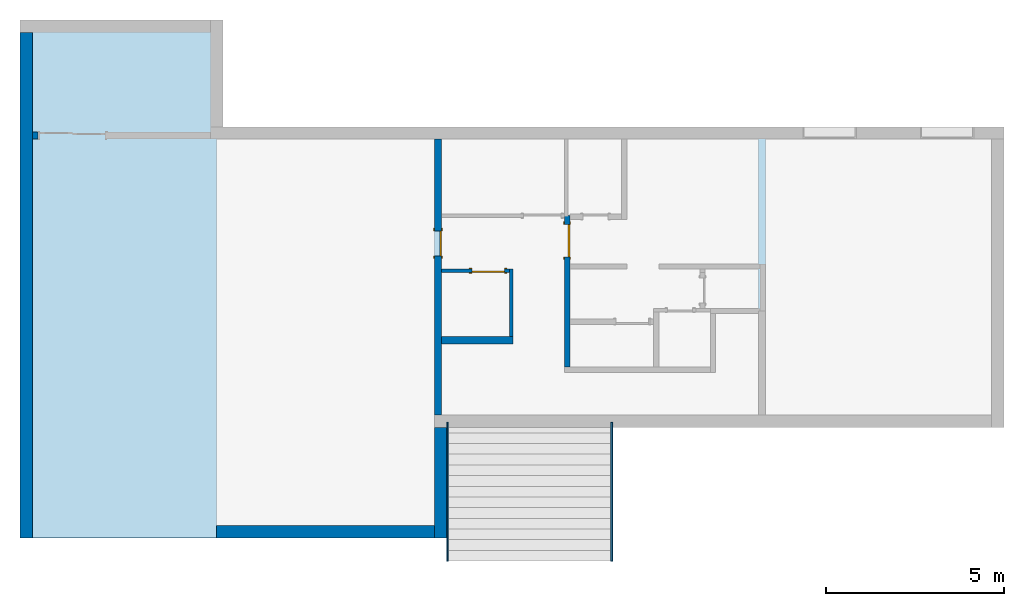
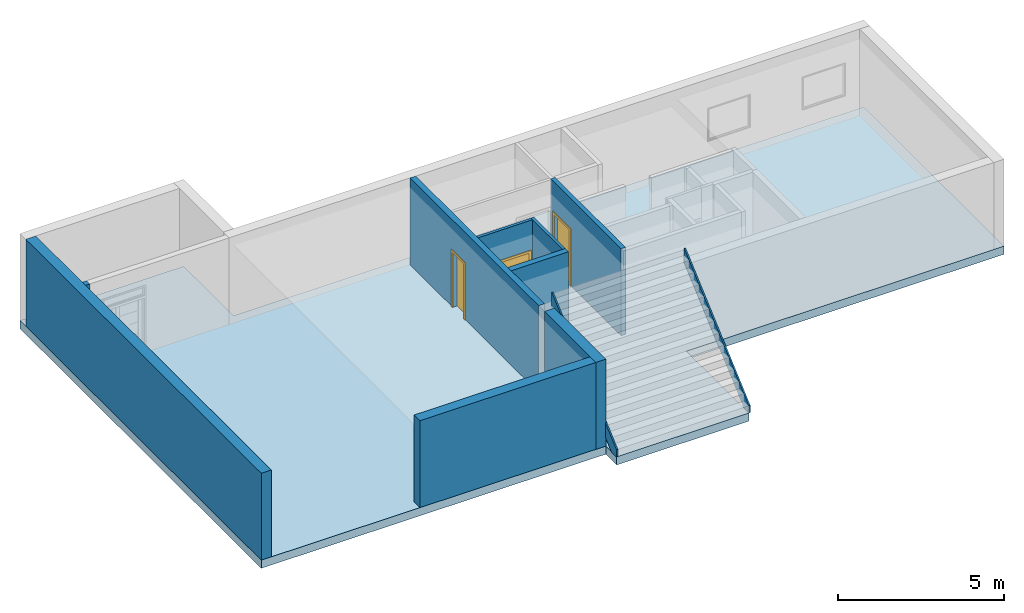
# One storey, part 1 of 5: 9 walls, 3 doors, 2 members, 1 slab, 3 openings, 1 element without a shape of its own.
"""IFC2X3 building model written with IfcOpenShell, lengths in metres."""

from ifc_helpers import new_model, entity, si_unit, converted_unit, derived_unit, direction, frame, frame_2d, origin, origin_2d_with_axis, place, context, subcontext, project, spatial, polyline, rectangle, outline, extrude, source, transform, mapped, material, material_list, layer, layer_set, layer_usage, type_object, type_shapes, element, fill, aggregate, save


model = new_model("IFC2X3")

# Units and contexts
model_context = context("Model", 3, precision=1e-05, world=origin(), true_north=direction((6.123031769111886e-17, 1.0)))
body_context = subcontext(model_context, "Body", "Model", "MODEL_VIEW")
ifc_project = project(units=[si_unit("LENGTHUNIT", "METRE"), si_unit("AREAUNIT", "SQUARE_METRE"), si_unit("VOLUMEUNIT", "CUBIC_METRE"), converted_unit("PLANEANGLEUNIT", "DEGREE", entity("IfcRatioMeasure", 0.017453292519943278), si_unit("PLANEANGLEUNIT", "RADIAN"), dimensions=[0, 0, 0, 0, 0, 0, 0]), si_unit("MASSUNIT", "GRAM", prefix="KILO"), derived_unit("MASSDENSITYUNIT", [(si_unit("MASSUNIT", "GRAM", prefix="KILO"), 1), (si_unit("LENGTHUNIT", "METRE"), -3)]), derived_unit("MOMENTOFINERTIAUNIT", [(si_unit("LENGTHUNIT", "METRE"), 4)]), si_unit("TIMEUNIT", "SECOND"), si_unit("FREQUENCYUNIT", "HERTZ"), si_unit("THERMODYNAMICTEMPERATUREUNIT", "DEGREE_CELSIUS"), derived_unit("THERMALTRANSMITTANCEUNIT", [(si_unit("MASSUNIT", "GRAM", prefix="KILO"), 1), (si_unit("THERMODYNAMICTEMPERATUREUNIT", "KELVIN"), -1), (si_unit("TIMEUNIT", "SECOND"), -3)]), derived_unit("VOLUMETRICFLOWRATEUNIT", [(si_unit("LENGTHUNIT", "METRE"), 3), (si_unit("TIMEUNIT", "SECOND"), -1)]), derived_unit("MASSFLOWRATEUNIT", [(si_unit("MASSUNIT", "GRAM", prefix="KILO"), 1), (si_unit("TIMEUNIT", "SECOND"), -1)]), derived_unit("ROTATIONALFREQUENCYUNIT", [(si_unit("TIMEUNIT", "SECOND"), -1)]), si_unit("ELECTRICCURRENTUNIT", "AMPERE"), si_unit("ELECTRICVOLTAGEUNIT", "VOLT"), si_unit("POWERUNIT", "WATT"), si_unit("FORCEUNIT", "NEWTON", prefix="KILO"), si_unit("ILLUMINANCEUNIT", "LUX"), si_unit("LUMINOUSFLUXUNIT", "LUMEN"), si_unit("LUMINOUSINTENSITYUNIT", "CANDELA"), derived_unit("USERDEFINED", [(si_unit("MASSUNIT", "GRAM", prefix="KILO"), -1), (si_unit("LENGTHUNIT", "METRE"), -2), (si_unit("TIMEUNIT", "SECOND"), 3), (si_unit("LUMINOUSFLUXUNIT", "LUMEN"), 1)]), derived_unit("SOUNDPOWERUNIT", [(si_unit("MASSUNIT", "GRAM", prefix="KILO"), 1), (si_unit("LENGTHUNIT", "METRE"), 2), (si_unit("TIMEUNIT", "SECOND"), -3)]), derived_unit("SOUNDPRESSUREUNIT", [(si_unit("MASSUNIT", "GRAM", prefix="KILO"), 1), (si_unit("LENGTHUNIT", "METRE"), -1), (si_unit("TIMEUNIT", "SECOND"), -2)]), derived_unit("LINEARVELOCITYUNIT", [(si_unit("LENGTHUNIT", "METRE"), 1), (si_unit("TIMEUNIT", "SECOND"), -1)]), si_unit("PRESSUREUNIT", "PASCAL"), derived_unit("USERDEFINED", [(si_unit("LENGTHUNIT", "METRE"), -2), (si_unit("MASSUNIT", "GRAM", prefix="KILO"), 1), (si_unit("TIMEUNIT", "SECOND"), -2)]), derived_unit("LINEARFORCEUNIT", [(si_unit("MASSUNIT", "GRAM", prefix="KILO"), 1), (si_unit("LENGTHUNIT", "METRE"), 1), (si_unit("TIMEUNIT", "SECOND"), -2), (si_unit("LENGTHUNIT", "METRE"), -1)]), derived_unit("PLANARFORCEUNIT", [(si_unit("MASSUNIT", "GRAM", prefix="KILO"), 1), (si_unit("LENGTHUNIT", "METRE"), 1), (si_unit("TIMEUNIT", "SECOND"), -2), (si_unit("LENGTHUNIT", "METRE"), -2)])], contexts=[model_context])

# Site, building, storey
site_placement = place(None, origin())
site = spatial("IfcSite", under=ifc_project, at=site_placement, Name="Default", CompositionType="ELEMENT")
building_placement = place(site_placement, origin())
building = spatial("IfcBuilding", under=site, at=building_placement, CompositionType="ELEMENT")
storey_placement = place(building_placement, frame((0.0, 0.0, -2.3)))
storey = spatial("IfcBuildingStorey", under=building, at=storey_placement, Name="B1", CompositionType="ELEMENT", Elevation=-2.3)

# Stair, members
stair_placement = place(storey_placement, origin())
stair = element("IfcStair", 1, at=stair_placement, inside=storey, Name="Assembled Stair:Stair", ObjectType="Assembled Stair:190mm max riser 250mm going", ShapeType="STRAIGHT_RUN_STAIR")
ifc_material_1 = material(Name="<Unnamed>")
member_type = type_object("IfcMemberType", Name="Stringer:Stringer - 50 mm Width", PredefinedType="STRINGER")
member_1_placement = place(stair_placement, origin())
member_1 = element("IfcMember", 2, at=member_1_placement, type_object=member_type, material=ifc_material_1, Name="Assembled Stair:Stair:228969 Stringer 1", ObjectType="Stringer:Stringer - 50 mm Width", context=body_context, shape_type="SweptSolid", body=[
    extrude(outline(polyline([(-1.619880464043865, -1.4278461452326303), (-1.320478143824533, -1.4278461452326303), (2.280119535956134, 1.7406798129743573), (2.280119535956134, 2.273506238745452), (-1.619880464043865, -1.158493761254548), (-1.619880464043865, -1.4278461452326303)])), frame((13.245827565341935, -7.582428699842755, 1.4278461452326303), z_axis=(1.0, 0.0, 0.0), x_axis=(0.0, 1.0, 0.0)), (0.0, 0.0, 1.0), 0.04999999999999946),
])
member_2_placement = place(stair_placement, origin())
member_2 = element("IfcMember", 3, at=member_2_placement, type_object=member_type, material=ifc_material_1, Name="Assembled Stair:Stair:228969 Stringer 2", ObjectType="Stringer:Stringer - 50 mm Width", context=body_context, shape_type="SweptSolid", body=[
    extrude(outline(polyline([(-1.619880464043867, -1.4278461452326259), (-1.3204781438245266, -1.4278461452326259), (2.280119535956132, 1.7406798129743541), (2.280119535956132, 2.273506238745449), (-1.619880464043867, -1.1584937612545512), (-1.619880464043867, -1.4278461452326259)])), frame((17.85768321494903, -7.582428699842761, 1.4278461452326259), z_axis=(1.0, 0.0, 0.0), x_axis=(0.0, 1.0, 0.0)), (0.0, 0.0, 1.0), 0.04999999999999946),
])
aggregate(stair, [member_1, member_2])

# Slab
ifc_material_2 = material(Name="Default Floor")
ifc_layer_1 = layer(ifc_material_2, 0.29999999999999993)
ifc_layer_set_1 = layer_set([ifc_layer_1], Name="Floor:Generic 300mm")
ifc_layer_usage_1 = layer_usage(ifc_layer_set_1, "AXIS3", "POSITIVE", 0.0)
slab_type = type_object("IfcSlabType", Name="Floor:Generic 300mm", PredefinedType="FLOOR", material=ifc_layer_set_1)
slab_placement = place(storey_placement, origin())
element("IfcSlab", 4, at=slab_placement, inside=storey, type_object=slab_type, material=ifc_layer_usage_1, Name="Floor:Generic 300mm", ObjectType="Floor:Generic 300mm", PredefinedType="FLOOR", context=body_context, shape_type="SweptSolid", body=[
    extrude(outline(polyline([(-5.709596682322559, -12.390000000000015), (8.840403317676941, -12.390000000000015), (8.840403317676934, -6.689999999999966), (5.840403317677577, -6.689999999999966), (5.840403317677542, 15.260000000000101), (-2.6095966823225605, 15.260000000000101), (-2.6095966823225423, 4.209999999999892), (-6.3616132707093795, 4.209999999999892), (-6.361613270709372, -0.3900000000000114), (-5.709596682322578, -0.39000000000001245), (-5.709596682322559, -12.390000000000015)])), frame((13.647683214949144, -2.840695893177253, 0.0), z_axis=(0.0, 0.0, -1.0), x_axis=(0.0, 1.0, 0.0)), (0.0, 0.0, 1.0), 0.30000000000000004),
])

# Walls
ifc_material_3 = material(Name="Masonry - Concrete Block")
ifc_layer_2 = layer(ifc_material_3, 0.35)
ifc_layer_set_2 = layer_set([ifc_layer_2], Name="Basic Wall:CW 350")
ifc_layer_usage_2 = layer_usage(ifc_layer_set_2, "AXIS2", "NEGATIVE", 0.175)
wall_type_1 = type_object("IfcWallType", Name="Basic Wall:CW 350", PredefinedType="STANDARD", material=ifc_layer_set_2)
wall_1_placement = place(storey_placement, frame((1.4326832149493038, 5.649707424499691, 0.0), z_axis=(0.0, 0.0, 1.0), x_axis=(0.0, -1.0, 0.0)))
element("IfcWallStandardCase", 5, at=wall_1_placement, inside=storey, type_object=wall_type_1, material=ifc_layer_usage_2, Name="Basic Wall:CW 350", ObjectType="Basic Wall:CW 350", context=body_context, shape_type="SweptSolid", body=[
    extrude(rectangle(XDim=14.200000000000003, YDim=0.35000000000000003, at=frame_2d((7.100000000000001, 1.3877787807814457e-17), x_axis=(-1.0, 0.0))), origin(), (0.0, 0.0, 1.0), 3.2),
])
ifc_layer_3 = layer(ifc_material_3, 0.35)
ifc_layer_set_3 = layer_set([ifc_layer_3], Name="Basic Wall:CW 102-50-100p")
ifc_layer_usage_3 = layer_usage(ifc_layer_set_3, "AXIS2", "NEGATIVE", 0.175)
wall_type_2 = type_object("IfcWallType", Name="Basic Wall:CW 102-50-100p", PredefinedType="STANDARD", material=ifc_layer_set_3)
wall_2_placement = place(storey_placement, frame((13.08268321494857, -5.450292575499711, 0.0), z_axis=(0.0, 0.0, 1.0), x_axis=(0.0, -1.0, 0.0)))
element("IfcWallStandardCase", 6, at=wall_2_placement, inside=storey, type_object=wall_type_2, material=ifc_layer_usage_3, Name="Basic Wall:CW 102-50-100p", ObjectType="Basic Wall:CW 102-50-100p", context=body_context, shape_type="SweptSolid", body=[
    extrude(rectangle(XDim=3.100000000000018, YDim=0.3499999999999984, at=frame_2d((1.550000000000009, 0.0), x_axis=(-1.0, 0.0))), origin(), (0.0, 0.0, 1.0), 3.2),
])
ifc_layer_usage_4 = layer_usage(ifc_layer_set_3, "AXIS2", "NEGATIVE", 0.175)
wall_3_placement = place(storey_placement, frame((12.907683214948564, -8.375292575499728, 0.0), z_axis=(0.0, 0.0, 1.0), x_axis=(-1.0, 0.0, 0.0)))
element("IfcWallStandardCase", 7, at=wall_3_placement, inside=storey, type_object=wall_type_2, material=ifc_layer_usage_4, Name="Basic Wall:CW 102-50-100p", ObjectType="Basic Wall:CW 102-50-100p", context=body_context, shape_type="SweptSolid", body=[
    extrude(rectangle(XDim=6.125000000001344, YDim=0.35000000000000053, at=frame_2d((3.062500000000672, -2.636779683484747e-16), x_axis=(-1.0, 0.0))), origin(), (0.0, 0.0, 1.0), 3.2),
])

# Wall, opening, door
ifc_layer_4 = layer(ifc_material_3, 0.2)
ifc_layer_set_4 = layer_set([ifc_layer_4], Name="Basic Wall:CW 200")
ifc_layer_usage_5 = layer_usage(ifc_layer_set_4, "AXIS2", "NEGATIVE", 0.1)
wall_type_3 = type_object("IfcWallType", Name="Basic Wall:CW 200", PredefinedType="STANDARD", material=ifc_layer_set_4)
wall_4_placement = place(storey_placement, frame((13.007683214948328, 2.6497074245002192, 0.0), z_axis=(0.0, 0.0, 1.0), x_axis=(0.0, -1.0, 0.0)))
wall_4 = element("IfcWallStandardCase", 8, at=wall_4_placement, inside=storey, type_object=wall_type_3, material=ifc_layer_usage_5, Name="Basic Wall:CW 200", ObjectType="Basic Wall:CW 200", context=body_context, shape_type="SweptSolid", body=[
    extrude(rectangle(XDim=7.749999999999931, YDim=0.2, at=frame_2d((3.8749999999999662, -1.0824674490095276e-15), x_axis=(1.0, 0.0))), origin(), (0.0, 0.0, 1.0), 3.2),
])
opening_1_placement = place(wall_4_placement, frame((2.5750419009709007, -0.10000000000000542, 0.0)))
opening_1 = element("IfcOpeningElement", 9, at=opening_1_placement, cuts=wall_4, Name="M_Single-Flush:0762 x 2032mm:1", ObjectType="Opening", context=body_context, shape_type="SweptSolid", body=[
    extrude(rectangle(XDim=0.7000000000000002, YDim=2.0319999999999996, at=frame_2d((1.0159999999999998, 0.3500000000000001), x_axis=(0.0, 1.0))), frame((0.0, 0.0, 0.0), z_axis=(0.0, 1.0, 0.0), x_axis=(0.0, 0.0, 1.0)), (0.0, 0.0, 1.0), 0.2),
])
ifc_material_4 = material(Name="Door - Frame")
ifc_material_5 = material(Name="Door - Panel")
ifc_material_list_1 = material_list([ifc_material_4, ifc_material_5])
ifc_material_list_2 = material_list([ifc_material_4, ifc_material_4, ifc_material_5])
door_style_1 = type_object("IfcDoorStyle", Name="M_Single-Flush:0762 x 2032mm", ConstructionType="NOTDEFINED", OperationType="NOTDEFINED", ParameterTakesPrecedence=False, Sizeable=False, material=ifc_material_list_2)
shared_shape_1 = source(origin(), body_context, "Body", "SweptSolid", [
    extrude(outline(polyline([(-0.426, -1.0729999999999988), (0.4259999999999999, -1.0729999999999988), (0.4259999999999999, 1.0350000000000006), (0.3499999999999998, 1.0350000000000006), (0.3499999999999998, -0.9970000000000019), (-0.3499999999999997, -0.9970000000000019), (-0.3499999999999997, 1.0350000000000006), (-0.426, 1.0350000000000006), (-0.426, -1.0729999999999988)])), frame((0.35000000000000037, 0.19999999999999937, 1.0350000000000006), z_axis=(0.0, 1.0, 0.0), x_axis=(1.0, 0.0, 0.0)), (0.0, 0.0, 1.0), 0.024999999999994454),
    extrude(outline(polyline([(-1.0729999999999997, -0.42599999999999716), (1.0349999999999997, -0.42599999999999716), (1.0349999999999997, -0.3500000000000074), (-0.9969999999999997, -0.3500000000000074), (-0.9969999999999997, 0.35000000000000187), (1.0349999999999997, 0.35000000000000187), (1.0349999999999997, 0.4260000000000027), (-1.0729999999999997, 0.4260000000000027), (-1.0729999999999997, -0.42599999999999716)])), frame((0.35000000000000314, -0.02500000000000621, 1.0349999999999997), z_axis=(0.0, 1.0, 0.0), x_axis=(0.0, 0.0, -1.0)), (0.0, 0.0, 1.0), 0.02500000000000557),
    extrude(rectangle(XDim=0.051000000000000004, YDim=0.6999999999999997, at=frame_2d((-3.469446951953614e-18, 0.0), x_axis=(1.0, 0.0))), frame((0.35000000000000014, 0.17449999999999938, 0.0), z_axis=(0.0, 0.0, 1.0), x_axis=(0.0, 1.0, 0.0)), (0.0, 0.0, 1.0), 2.0319999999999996),
])
type_shapes(door_style_1, [shared_shape_1])
door_1_placement = place(opening_1_placement, origin())
door_1 = element("IfcDoor", 10, at=door_1_placement, inside=storey, type_object=door_style_1, material=ifc_material_list_1, Name="M_Single-Flush:0762 x 2032mm", ObjectType="M_Single-Flush:0762 x 2032mm", OverallHeight=2.0319999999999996, OverallWidth=0.7, context=body_context, shape_type="MappedRepresentation", body=[
    mapped(shared_shape_1, transform((0.0, 0.0, 0.0), scale=1.0)),
])
fill(opening_1, door_1)

# Walls
ifc_layer_usage_6 = layer_usage(ifc_layer_set_4, "AXIS2", "NEGATIVE", 0.1)
wall_5_placement = place(storey_placement, frame((13.107683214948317, -3.000376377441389, 0.0)))
element("IfcWallStandardCase", 11, at=wall_5_placement, inside=storey, type_object=wall_type_3, material=ifc_layer_usage_6, Name="Basic Wall:CW 200", ObjectType="Basic Wall:CW 200", context=body_context, shape_type="SweptSolid", body=[
    extrude(rectangle(XDim=2.0000000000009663, YDim=0.2, at=frame_2d((1.0000000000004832, 0.0), x_axis=(-1.0, 0.0))), origin(), (0.0, 0.0, 1.0), 3.2),
])
ifc_layer_usage_7 = layer_usage(ifc_layer_set_4, "AXIS2", "NEGATIVE", 0.1)
wall_6_placement = place(storey_placement, frame((1.7576832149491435, 2.7497074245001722, 0.0), z_axis=(0.0, 0.0, 1.0), x_axis=(-1.0, 0.0, 0.0)))
element("IfcWallStandardCase", 12, at=wall_6_placement, inside=storey, type_object=wall_type_3, material=ifc_layer_usage_7, Name="Basic Wall:CW 200", ObjectType="Basic Wall:CW 200", context=body_context, shape_type="SweptSolid", body=[
    extrude(rectangle(XDim=0.14999999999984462, YDim=0.2, at=frame_2d((0.07499999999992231, 0.0), x_axis=(-1.0, 0.0))), origin(), (0.0, 0.0, 1.0), 3.2),
])
ifc_layer_5 = layer(ifc_material_3, 0.1)
ifc_layer_set_5 = layer_set([ifc_layer_5], Name="Basic Wall:CW 100")
ifc_layer_usage_8 = layer_usage(ifc_layer_set_5, "AXIS2", "NEGATIVE", 0.05)
wall_type_4 = type_object("IfcWallType", Name="Basic Wall:CW 100", PredefinedType="STANDARD", material=ifc_layer_set_5)
wall_7_placement = place(storey_placement, frame((15.057683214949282, -2.9003763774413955, 0.0), z_axis=(0.0, 0.0, 1.0), x_axis=(0.0, 1.0, 0.0)))
element("IfcWallStandardCase", 13, at=wall_7_placement, inside=storey, type_object=wall_type_4, material=ifc_layer_usage_8, Name="Basic Wall:CW 100", ObjectType="Basic Wall:CW 100", context=body_context, shape_type="SweptSolid", body=[
    extrude(rectangle(XDim=1.9000000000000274, YDim=0.09999999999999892, at=frame_2d((0.9500000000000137, 0.0), x_axis=(-1.0, 0.0))), origin(), (0.0, 0.0, 1.0), 3.2),
])

# Wall, opening, door
ifc_layer_usage_9 = layer_usage(ifc_layer_set_5, "AXIS2", "NEGATIVE", 0.05)
wall_8_placement = place(storey_placement, frame((15.007683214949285, -1.0503763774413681, 0.0), z_axis=(0.0, 0.0, 1.0), x_axis=(-1.0, 0.0, 0.0)))
wall_8 = element("IfcWallStandardCase", 14, at=wall_8_placement, inside=storey, type_object=wall_type_4, material=ifc_layer_usage_9, Name="Basic Wall:CW 100", ObjectType="Basic Wall:CW 100", context=body_context, shape_type="SweptSolid", body=[
    extrude(rectangle(XDim=1.9000000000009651, YDim=0.1, at=frame_2d((0.9500000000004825, -2.42861286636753e-17), x_axis=(1.0, 0.0))), origin(), (0.0, 0.0, 1.0), 3.2),
])
opening_2_placement = place(wall_8_placement, frame((0.13542511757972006, -0.05000000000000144, 0.0)))
opening_2 = element("IfcOpeningElement", 15, at=opening_2_placement, cuts=wall_8, Name="M_Single-Flush:0915 x 2032mm:1", ObjectType="Opening", context=body_context, shape_type="SweptSolid", body=[
    extrude(rectangle(XDim=0.9149999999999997, YDim=2.0319999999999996, at=frame_2d((1.0159999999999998, 0.4575), x_axis=(0.0, 1.0))), frame((0.0, 0.0, 0.0), z_axis=(0.0, 1.0, 0.0), x_axis=(0.0, 0.0, 1.0)), (0.0, 0.0, 1.0), 0.1),
])
ifc_material_list_3 = material_list([ifc_material_4, ifc_material_4, ifc_material_5])
ifc_material_list_4 = material_list([ifc_material_4, ifc_material_4, ifc_material_5])
door_style_2 = type_object("IfcDoorStyle", Name="M_Single-Flush:0915 x 2032mm", ConstructionType="NOTDEFINED", OperationType="NOTDEFINED", ParameterTakesPrecedence=False, Sizeable=False, material=ifc_material_list_4)
shared_shape_2 = source(origin(), body_context, "Body", "SweptSolid", [
    extrude(outline(polyline([(-0.5334999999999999, -1.0729999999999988), (0.5334999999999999, -1.0729999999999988), (0.5334999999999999, 1.0350000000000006), (0.4574999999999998, 1.0350000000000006), (0.4574999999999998, -0.9970000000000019), (-0.4574999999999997, -0.9970000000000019), (-0.4574999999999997, 1.0350000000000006), (-0.5334999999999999, 1.0350000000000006), (-0.5334999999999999, -1.0729999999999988)])), frame((0.4575000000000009, 0.09999999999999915, 1.0350000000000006), z_axis=(0.0, 1.0, 0.0), x_axis=(1.0, 0.0, 0.0)), (0.0, 0.0, 1.0), 0.024999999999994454),
    extrude(outline(polyline([(-1.0729999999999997, -0.5334999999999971), (1.0349999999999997, -0.5334999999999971), (1.0349999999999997, -0.45750000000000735), (-0.9969999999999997, -0.45750000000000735), (-0.9969999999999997, 0.4575000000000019), (1.0349999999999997, 0.4575000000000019), (1.0349999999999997, 0.5335000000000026), (-1.0729999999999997, 0.5335000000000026), (-1.0729999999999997, -0.5334999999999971)])), frame((0.4575000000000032, -0.02500000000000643, 1.0349999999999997), z_axis=(0.0, 1.0, 0.0), x_axis=(0.0, 0.0, -1.0)), (0.0, 0.0, 1.0), 0.025000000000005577),
    extrude(rectangle(XDim=0.051000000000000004, YDim=0.9149999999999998, at=origin_2d_with_axis()), frame((0.4575000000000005, 0.07449999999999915, 0.0), z_axis=(0.0, 0.0, 1.0), x_axis=(0.0, 1.0, 0.0)), (0.0, 0.0, 1.0), 2.0319999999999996),
])
type_shapes(door_style_2, [shared_shape_2])
door_2_placement = place(opening_2_placement, origin())
door_2 = element("IfcDoor", 16, at=door_2_placement, inside=storey, type_object=door_style_2, material=ifc_material_list_3, Name="M_Single-Flush:0915 x 2032mm", ObjectType="M_Single-Flush:0915 x 2032mm", OverallHeight=2.0319999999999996, OverallWidth=0.9149999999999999, context=body_context, shape_type="MappedRepresentation", body=[
    mapped(shared_shape_2, transform((0.0, 0.0, 0.0), scale=1.0)),
])
fill(opening_2, door_2)

ifc_layer_6 = layer(ifc_material_3, 0.14999999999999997)
ifc_layer_set_6 = layer_set([ifc_layer_6], Name="Basic Wall:CW 150")
ifc_layer_usage_10 = layer_usage(ifc_layer_set_6, "AXIS2", "NEGATIVE", 0.07499999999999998)
wall_type_5 = type_object("IfcWallType", Name="Basic Wall:CW 150", PredefinedType="STANDARD", material=ifc_layer_set_6)
wall_9_placement = place(storey_placement, frame((16.63268321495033, -3.750376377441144, 0.0), z_axis=(0.0, 0.0, 1.0), x_axis=(0.0, 1.0, 0.0)))
wall_9 = element("IfcWallStandardCase", 17, at=wall_9_placement, inside=storey, type_object=wall_type_5, material=ifc_layer_usage_10, Name="Basic Wall:CW 150", ObjectType="Basic Wall:CW 150", context=body_context, shape_type="SweptSolid", body=[
    extrude(rectangle(XDim=4.250083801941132, YDim=0.15000000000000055, at=frame_2d((2.1250419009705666, -5.551115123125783e-17), x_axis=(1.0, 0.0))), origin(), (0.0, 0.0, 1.0), 3.2000000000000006),
])
opening_3_placement = place(wall_9_placement, frame((4.010083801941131, 0.07499999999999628, 0.0)))
opening_3 = element("IfcOpeningElement", 18, at=opening_3_placement, cuts=wall_9, Name="M_Single-Flush:0915 x 2032mm:1", ObjectType="Opening", context=body_context, shape_type="SweptSolid", body=[
    extrude(rectangle(XDim=0.9149999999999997, YDim=2.0319999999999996, at=frame_2d((1.0159999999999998, 0.4575000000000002), x_axis=(0.0, -1.0))), frame((0.0, 0.0, 0.0), z_axis=(0.0, -1.0, 0.0), x_axis=(0.0, 0.0, 1.0)), (0.0, 0.0, 1.0), 0.14999999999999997),
])
ifc_material_list_5 = material_list([ifc_material_4, ifc_material_4, ifc_material_5])
ifc_material_list_6 = material_list([ifc_material_4, ifc_material_4, ifc_material_5])
door_style_3 = type_object("IfcDoorStyle", Name="M_Single-Flush:0915 x 2032mm", ConstructionType="NOTDEFINED", OperationType="NOTDEFINED", ParameterTakesPrecedence=False, Sizeable=False, material=ifc_material_list_6)
shared_shape_3 = source(origin(), body_context, "Body", "SweptSolid", [
    extrude(outline(polyline([(-0.5334999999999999, -1.0729999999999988), (0.5334999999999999, -1.0729999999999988), (0.5334999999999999, 1.0350000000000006), (0.4574999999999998, 1.0350000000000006), (0.4574999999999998, -0.9970000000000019), (-0.4574999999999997, -0.9970000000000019), (-0.4574999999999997, 1.0350000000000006), (-0.5334999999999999, 1.0350000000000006), (-0.5334999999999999, -1.0729999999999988)])), frame((0.4575000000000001, 0.17499999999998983, 1.0350000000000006), z_axis=(0.0, -1.0, 0.0), x_axis=(-1.0, 0.0, 0.0)), (0.0, 0.0, 1.0), 0.024999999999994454),
    extrude(outline(polyline([(-1.0729999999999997, -0.5334999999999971), (1.0349999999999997, -0.5334999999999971), (1.0349999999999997, -0.45750000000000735), (-0.9969999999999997, -0.45750000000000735), (-0.9969999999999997, 0.4575000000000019), (1.0349999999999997, 0.4575000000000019), (1.0349999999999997, 0.5335000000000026), (-1.0729999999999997, 0.5335000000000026), (-1.0729999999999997, -0.5334999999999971)])), frame((0.4574999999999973, 0.0, 1.0349999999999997), z_axis=(0.0, -1.0, 0.0), x_axis=(0.0, 0.0, -1.0)), (0.0, 0.0, 1.0), 0.025000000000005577),
    extrude(rectangle(XDim=0.9149999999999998, YDim=0.051000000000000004, at=frame_2d((0.0, 3.469446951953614e-18), x_axis=(1.0, 0.0))), frame((0.45750000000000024, 0.12449999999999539, 0.0)), (0.0, 0.0, 1.0), 2.0319999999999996),
])
type_shapes(door_style_3, [shared_shape_3])
door_3_placement = place(opening_3_placement, frame((0.0, 0.0, 0.0), z_axis=(0.0, 0.0, 1.0), x_axis=(-1.0, 0.0, 0.0)))
door_3 = element("IfcDoor", 19, at=door_3_placement, inside=storey, type_object=door_style_3, material=ifc_material_list_5, Name="M_Single-Flush:0915 x 2032mm", ObjectType="M_Single-Flush:0915 x 2032mm", OverallHeight=2.0319999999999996, OverallWidth=0.9149999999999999, context=body_context, shape_type="MappedRepresentation", body=[
    mapped(shared_shape_3, transform((0.0, 0.0, 0.0), scale=1.0)),
])
fill(opening_3, door_3)

save(model, "model.ifc")
